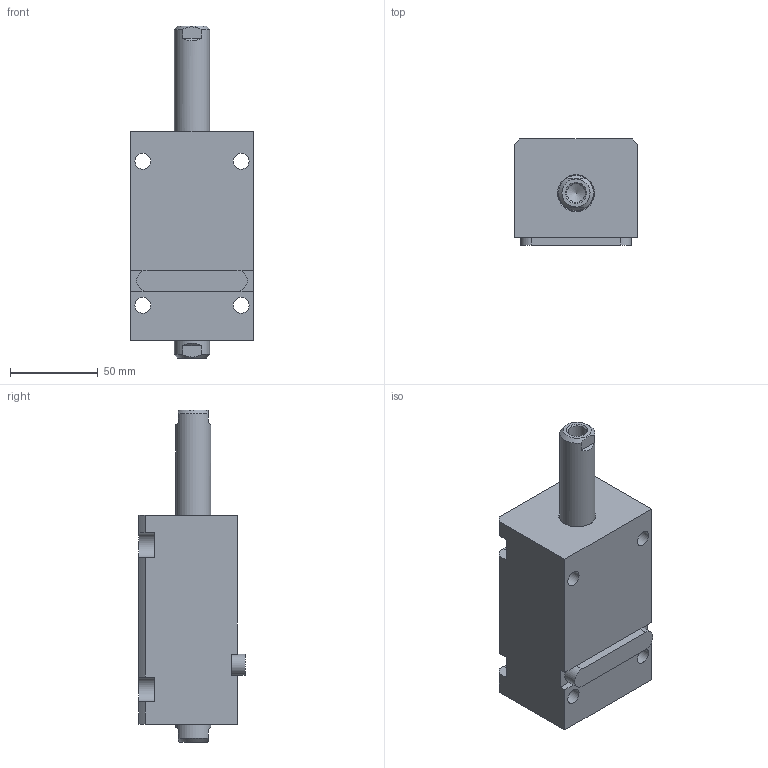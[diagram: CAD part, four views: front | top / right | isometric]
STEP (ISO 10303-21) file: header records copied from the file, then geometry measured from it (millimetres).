
FILE_DESCRIPTION(/* description */ (''),/* implementation_level */ '2;1');
FILE_NAME(/* name */ 'CHTB-LW32-50N.stp',/* time_stamp */ '2022-04-29T16:15:14+08:00',/* author */ (''),/* organization */ (''),/* preprocessor_version */ 'ST-DEVELOPER v16.7',/* originating_system */ 'SIEMENS PLM Software NX 12.0',/* authorisation */ '');
FILE_SCHEMA (('AUTOMOTIVE_DESIGN { 1 0 10303 214 3 1 1 1 }'));
Length unit declared in the file: millimetre
Products named in the file (1): CHTB-LW32-50N
Bounding box: 70 x 60.5 x 189 mm (x, y, z)
Volume: 437390.6 mm3; surface area: 80666 mm2
Topology: 3 solids, 3 shells, 450 faces, 1248 edges, 842 vertices
Faces by surface type: plane 290, extrusion 80, cylinder 44, cone 14, torus 12, bspline 10
Full cylindrical faces by diameter (mm): 3 x2, 4 x2, 9 x4, 10.5 x2, 10.7 x2, 20 x4, 24.5 x1, 26 x2, 28 x1, 32 x5, 40 x1
Entity records: 21408 total; most frequent: CARTESIAN_POINT 8359, ORIENTED_EDGE 2360, DIRECTION 1834, EDGE_CURVE 1180, VECTOR 896, VERTEX_POINT 830, LINE 816, EDGE_LOOP 556
